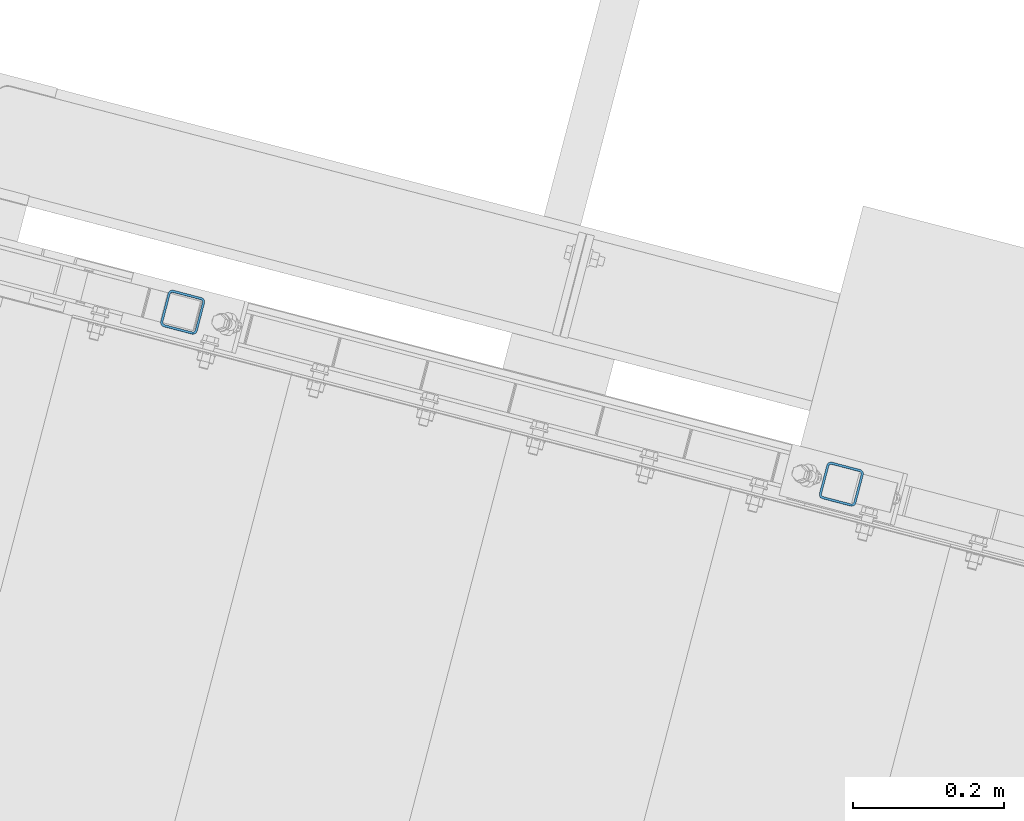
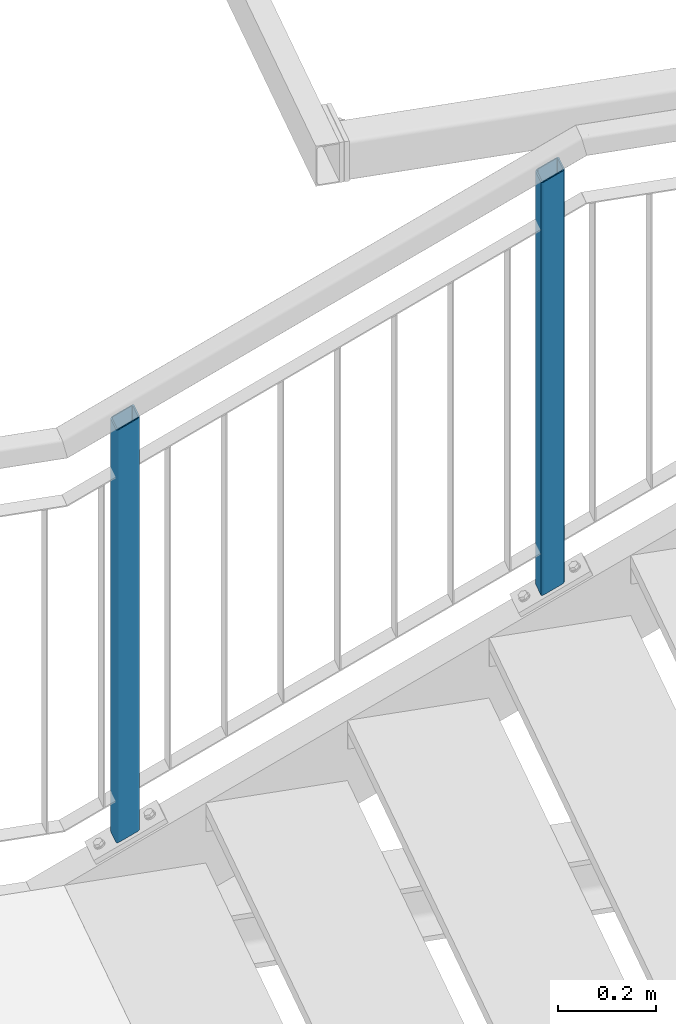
# One storey, part 43 of 169: 2 discrete accessories, 1 element without a shape of its own.
"""IFC2X3 building model written with IfcOpenShell, lengths in millimetres."""

from ifc_helpers import new_model, si_unit, frame, origin_with_axes, origin_2d_with_axis, place, context, subcontext, project, spatial, hollow_rectangle, extrude, clip, halfspace, material, type_object, element, aggregate, save


model = new_model("IFC2X3")

# Units and contexts
model_context = context("Model", 3, precision=1e-05, world=origin_with_axes())
body_context = subcontext(model_context, "Body", "Model", "MODEL_VIEW")
ifc_project = project(units=[si_unit("LENGTHUNIT", "METRE", prefix="MILLI"), si_unit("AREAUNIT", "SQUARE_METRE"), si_unit("VOLUMEUNIT", "CUBIC_METRE"), si_unit("MASSUNIT", "GRAM", prefix="KILO"), si_unit("TIMEUNIT", "SECOND"), si_unit("PLANEANGLEUNIT", "RADIAN"), si_unit("SOLIDANGLEUNIT", "STERADIAN"), si_unit("THERMODYNAMICTEMPERATUREUNIT", "DEGREE_CELSIUS"), si_unit("LUMINOUSINTENSITYUNIT", "LUMEN")], contexts=[model_context])

# Site, building, storey
site_placement = place(None, origin_with_axes())
site = spatial("IfcSite", under=ifc_project, at=site_placement, Name="Undefined", CompositionType="ELEMENT")
building_placement = place(site_placement, origin_with_axes())
building = spatial("IfcBuilding", under=site, at=building_placement, Name="Undefined", CompositionType="ELEMENT")
storey_placement = place(building_placement, origin_with_axes())
storey = spatial("IfcBuildingStorey", under=building, at=storey_placement, Name="Undefined", CompositionType="ELEMENT", Elevation=0.0)

# Assembly, discrete accessories
assembly_placement = place(storey_placement, origin_with_axes())
assembly = element("IfcElementAssembly", 1, at=assembly_placement, inside=storey, Name="Steel Assembly", AssemblyPlace="NOTDEFINED", PredefinedType="RIGID_FRAME")
ifc_material = material(Name="STEEL/S235")
discrete_accessory_type = type_object("IfcDiscreteAccessoryType", Name="STANCHION")
discrete_accessory_1_placement = place(assembly_placement, frame((-27420.2352492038, 8767.84225304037, 12449.9945256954), z_axis=(3.4552000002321e-05, 0.000132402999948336, 0.999999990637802), x_axis=(0.252628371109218, 0.967563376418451, -0.000136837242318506)))
discrete_accessory_1 = element("IfcDiscreteAccessory", 2, at=discrete_accessory_1_placement, type_object=discrete_accessory_type, material=ifc_material, Name="STANCHION", ObjectType="SHS50*3", context=body_context, shape_type="Clipping", body=[
    clip(clip(extrude(hollow_rectangle(XDim=50.0, YDim=50.0, WallThickness=3.0, InnerFilletRadius=3.0, OuterFilletRadius=6.0, at=origin_2d_with_axis()), frame((-1.22213350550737e-12, -3.63797433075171e-12, 1069.31375677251), z_axis=(-2.54700353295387e-10, 0.0, -1.0), x_axis=(0.0, 1.0, 0.0)), (0.0, 0.0, 1.0), 1079.92), halfspace(frame((-3.05155225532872e-08, 25.0000002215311, 1031.54915017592), z_axis=(3.87066900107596e-10, 0.44721359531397, 0.89442719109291), x_axis=(1.0, 0.0, 0.0)), False)), halfspace(frame((999.999067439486, 2.68328154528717, 13.4904219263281), z_axis=(-0.00015298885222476, 0.447213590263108, 0.894427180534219), x_axis=(-7.64941891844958e-05, -0.894427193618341, 0.447213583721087)), True)),
])
discrete_accessory_2_placement = place(assembly_placement, frame((-26549.412644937, 8540.53629642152, 12899.9945216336), z_axis=(3.4552000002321e-05, 0.000132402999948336, 0.999999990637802), x_axis=(0.252628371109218, 0.967563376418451, -0.000136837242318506)))
discrete_accessory_2 = element("IfcDiscreteAccessory", 3, at=discrete_accessory_2_placement, type_object=discrete_accessory_type, material=ifc_material, Name="STANCHION", ObjectType="SHS50*3", context=body_context, shape_type="Clipping", body=[
    clip(clip(extrude(hollow_rectangle(XDim=50.0, YDim=50.0, WallThickness=3.0, InnerFilletRadius=3.0, OuterFilletRadius=6.0, at=origin_2d_with_axis()), frame((-1.22213350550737e-12, -3.63797433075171e-12, 1069.31375677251), z_axis=(-2.54700353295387e-10, 0.0, -1.0), x_axis=(0.0, 1.0, 0.0)), (0.0, 0.0, 1.0), 1079.92), halfspace(frame((-3.05155225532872e-08, 25.0000002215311, 1031.54915017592), z_axis=(3.87066900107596e-10, 0.44721359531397, 0.89442719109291), x_axis=(1.0, 0.0, 0.0)), False)), halfspace(frame((999.999067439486, 2.68328154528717, 13.4904219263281), z_axis=(-0.00015298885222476, 0.447213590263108, 0.894427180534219), x_axis=(-7.64941891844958e-05, -0.894427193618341, 0.447213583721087)), True)),
])
aggregate(assembly, [discrete_accessory_1, discrete_accessory_2])

save(model, "model.ifc")
